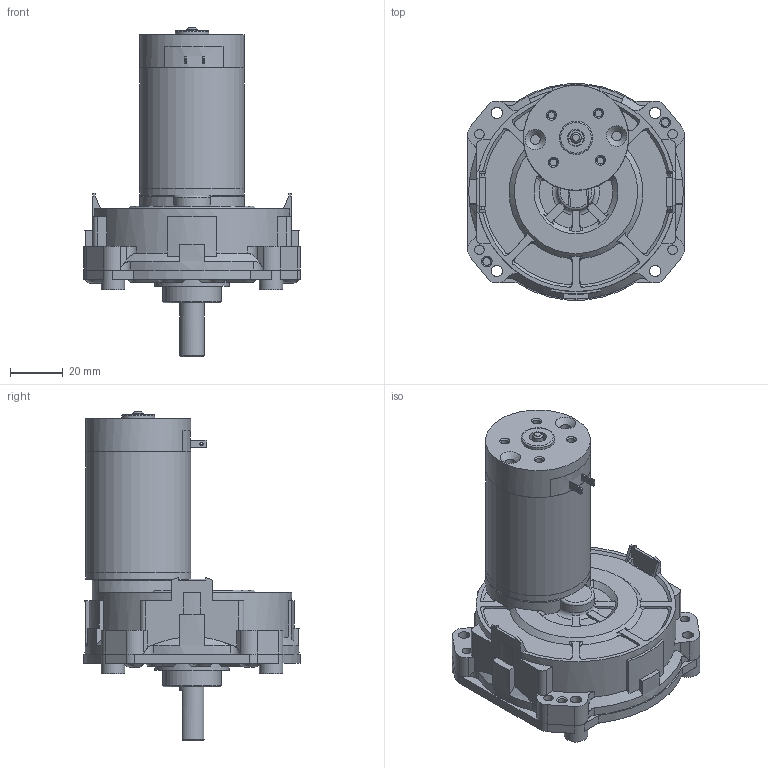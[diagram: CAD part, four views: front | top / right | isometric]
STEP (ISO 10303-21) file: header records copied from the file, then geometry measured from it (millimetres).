
FILE_DESCRIPTION(/* description */ (''),/* implementation_level */ '2;1');
FILE_NAME(/* name */ 'C:\Users\byjeong\Desktop\3D도면\SP44BT.stp',/* time_stamp */ '2015-03-31T15:43:04+09:00',/* author */ ('byjeong'),/* organization */ (''),/* preprocessor_version */ 'ST-DEVELOPER v15.6',/* originating_system */ 'Autodesk Inventor 2015',/* authorisation */ '');
FILE_SCHEMA (('AUTOMOTIVE_DESIGN { 1 0 10303 214 3 1 1 }'));
Length unit declared in the file: millimetre
Products named in the file (10): SP BOX ASSY; DC SP BOX; RM4TYPE_BRUSH_BRAKET_TERMINAL; RM4TYPE_REAR_HOUSING; REAR_HOUSING__ASS'Y_TERMINAL; RM4TYPE_FRONT_HOUSING_; RM44TYPE_SHAFT; RM4TYPE_PIPE_HOUSING_pi40XL45.9; RM44ㅁBT; SP BOX ASSY.ipt
Bounding box: 82.6 x 82.32 x 125.47 mm (x, y, z)
Volume: 97676.3 mm3; surface area: 68757.9 mm2
Topology: 8 solids, 9 shells, 653 faces, 1705 edges, 1117 vertices
Faces by surface type: plane 344, cylinder 186, cone 69, bspline 28, torus 24, sphere 2
Full cylindrical faces by diameter (mm): 1.2 x2, 2.7 x4, 2.8 x4, 3 x14, 3.05 x2, 3.4 x2, 3.5 x2, 3.6 x4, 3.7 x2, 3.969 x1, 4 x5, 4.3 x8, 4.5 x4, 5 x2, 6 x1, 6.5 x1, 6.65 x1, 9 x4, 9.5 x2, 9.54 x1, 10.5 x1, 12.5 x1, 12.7 x3, 14 x1, 14.3 x2, 14.5 x2, 16.6 x1, 17.6 x1, 22.2 x1, 28.5 x1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
Entity records: 21127 total; most frequent: CARTESIAN_POINT 5482, DIRECTION 3175, ORIENTED_EDGE 3098, EDGE_CURVE 1549, AXIS2_PLACEMENT_3D 1247, VERTEX_POINT 1087, EDGE_LOOP 894, LINE 681
